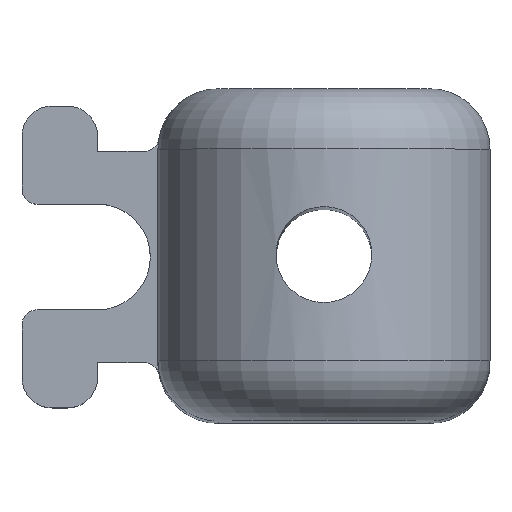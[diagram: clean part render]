
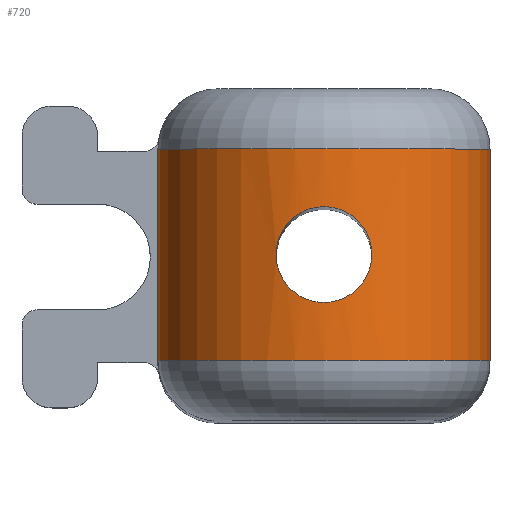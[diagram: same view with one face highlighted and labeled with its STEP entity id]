
A CAD part, top view. The second image highlights one B-rep face of the part: STEP entity #720.
In plain terms, the highlighted cylindrical face has radius 11 mm (diameter 22 mm), a partial arc.
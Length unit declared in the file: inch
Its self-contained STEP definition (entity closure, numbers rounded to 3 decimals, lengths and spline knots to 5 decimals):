
#39=FACE_BOUND('',#87,.T.);
#41=B_SPLINE_CURVE_WITH_KNOTS('',3,(#1118,#1119,#1120,#1121,#1122,#1123,
#1124,#1125,#1126,#1127,#1128,#1129,#1130,#1131),.UNSPECIFIED.,.F.,.F.,
(4,2,2,2,2,2,4),(1.92544,2.0458,2.16615,2.28648,
2.4068,2.52713,2.54432),.UNSPECIFIED.);
#42=B_SPLINE_CURVE_WITH_KNOTS('',3,(#1132,#1133,#1134,#1135,#1136,#1137,
#1138,#1139,#1140,#1141,#1142,#1143,#1144,#1145,#1146,#1147,#1148,#1149,
#1150,#1151,#1152,#1153,#1154,#1155),.UNSPECIFIED.,.F.,.F.,(4,2,2,2,2,2,
2,2,2,2,2,4),(0.61887,0.72201,0.84237,0.96272,
1.08308,1.20343,1.32376,1.44408,1.56441,
1.68473,1.80509,1.92544),.UNSPECIFIED.);
#43=FACE_OUTER_BOUND('',#86,.T.);
#86=EDGE_LOOP('',(#481,#482,#483,#484));
#87=EDGE_LOOP('',(#485,#486));
#131=LINE('',#1112,#194);
#132=LINE('',#1115,#195);
#194=VECTOR('',#871,0.55118);
#195=VECTOR('',#874,0.55118);
#257=CIRCLE('',#778,0.43307);
#258=CIRCLE('',#779,0.43307);
#302=VERTEX_POINT('',#1108);
#303=VERTEX_POINT('',#1109);
#304=VERTEX_POINT('',#1111);
#305=VERTEX_POINT('',#1113);
#306=VERTEX_POINT('',#1116);
#307=VERTEX_POINT('',#1117);
#371=EDGE_CURVE('',#302,#303,#257,.T.);
#372=EDGE_CURVE('',#302,#304,#131,.T.);
#373=EDGE_CURVE('',#305,#304,#258,.T.);
#374=EDGE_CURVE('',#303,#305,#132,.T.);
#375=EDGE_CURVE('',#306,#307,#41,.F.);
#376=EDGE_CURVE('',#307,#306,#42,.F.);
#481=ORIENTED_EDGE('',*,*,#371,.F.);
#482=ORIENTED_EDGE('',*,*,#372,.T.);
#483=ORIENTED_EDGE('',*,*,#373,.F.);
#484=ORIENTED_EDGE('',*,*,#374,.F.);
#485=ORIENTED_EDGE('',*,*,#375,.T.);
#486=ORIENTED_EDGE('',*,*,#376,.T.);
#701=CYLINDRICAL_SURFACE('',#777,0.43307);
#720=ADVANCED_FACE('',(#43,#39),#701,.T.);
#777=AXIS2_PLACEMENT_3D('',#1107,#867,#868);
#778=AXIS2_PLACEMENT_3D('',#1110,#869,#870);
#779=AXIS2_PLACEMENT_3D('',#1114,#872,#873);
#867=DIRECTION('center_axis',(0.,1.,0.));
#868=DIRECTION('ref_axis',(-1.,0.,0.));
#869=DIRECTION('center_axis',(0.,-1.,0.));
#870=DIRECTION('ref_axis',(0.,0.,1.));
#871=DIRECTION('',(0.,1.,0.));
#872=DIRECTION('center_axis',(0.,1.,0.));
#873=DIRECTION('ref_axis',(0.,0.,1.));
#874=DIRECTION('',(0.,1.,0.));
#1107=CARTESIAN_POINT('Origin',(0.,0.,3.89764));
#1108=CARTESIAN_POINT('',(0.43307,-0.27559,3.89764));
#1109=CARTESIAN_POINT('',(-0.43307,-0.27559,3.89764));
#1110=CARTESIAN_POINT('Origin',(0.,-0.27559,
3.89764));
#1111=CARTESIAN_POINT('',(0.43307,0.27559,3.89764));
#1112=CARTESIAN_POINT('',(0.43307,-0.27559,3.89764));
#1113=CARTESIAN_POINT('',(-0.43307,0.27559,3.89764));
#1114=CARTESIAN_POINT('Origin',(0.,0.27559,
3.89764));
#1115=CARTESIAN_POINT('',(-0.43307,-0.27559,3.89764));
#1116=CARTESIAN_POINT('',(-0.05447,0.11251,4.32727));
#1117=CARTESIAN_POINT('',(0.125,0.,4.31228));
#1118=CARTESIAN_POINT('Ctrl Pts',(0.125,0.,4.31228));
#1119=CARTESIAN_POINT('Ctrl Pts',(0.125,0.01579,4.31228));
#1120=CARTESIAN_POINT('Ctrl Pts',(0.12182,0.03258,4.31327));
#1121=CARTESIAN_POINT('Ctrl Pts',(0.10904,0.06334,
4.31681));
#1122=CARTESIAN_POINT('Ctrl Pts',(0.09944,0.07734,
4.31929));
#1123=CARTESIAN_POINT('Ctrl Pts',(0.07734,0.09943,
4.3239));
#1124=CARTESIAN_POINT('Ctrl Pts',(0.06335,0.10904,4.32633));
#1125=CARTESIAN_POINT('Ctrl Pts',(0.03257,0.12183,
4.32976));
#1126=CARTESIAN_POINT('Ctrl Pts',(0.01579,0.125,4.33071));
#1127=CARTESIAN_POINT('Ctrl Pts',(-0.01579,0.125,4.33071));
#1128=CARTESIAN_POINT('Ctrl Pts',(-0.03257,0.12183,
4.32976));
#1129=CARTESIAN_POINT('Ctrl Pts',(-0.05016,0.11452,
4.3278));
#1130=CARTESIAN_POINT('Ctrl Pts',(-0.05233,0.11354,
4.32754));
#1131=CARTESIAN_POINT('Ctrl Pts',(-0.05447,0.11251,
4.32727));
#1132=CARTESIAN_POINT('Ctrl Pts',(-0.05447,0.11251,
4.32727));
#1133=CARTESIAN_POINT('Ctrl Pts',(-0.0673,0.1063,
4.32564));
#1134=CARTESIAN_POINT('Ctrl Pts',(-0.07892,0.09786,
4.32357));
#1135=CARTESIAN_POINT('Ctrl Pts',(-0.09944,0.07734,
4.31929));
#1136=CARTESIAN_POINT('Ctrl Pts',(-0.10904,0.06334,
4.31681));
#1137=CARTESIAN_POINT('Ctrl Pts',(-0.12182,0.03258,
4.31327));
#1138=CARTESIAN_POINT('Ctrl Pts',(-0.125,0.01579,4.31228));
#1139=CARTESIAN_POINT('Ctrl Pts',(-0.125,-0.01579,4.31228));
#1140=CARTESIAN_POINT('Ctrl Pts',(-0.12182,-0.03258,
4.31327));
#1141=CARTESIAN_POINT('Ctrl Pts',(-0.10904,-0.06334,
4.31681));
#1142=CARTESIAN_POINT('Ctrl Pts',(-0.09944,-0.07734,
4.31929));
#1143=CARTESIAN_POINT('Ctrl Pts',(-0.07734,-0.09943,
4.3239));
#1144=CARTESIAN_POINT('Ctrl Pts',(-0.06335,-0.10904,
4.32633));
#1145=CARTESIAN_POINT('Ctrl Pts',(-0.03257,-0.12183,
4.32976));
#1146=CARTESIAN_POINT('Ctrl Pts',(-0.01579,-0.125,4.33071));
#1147=CARTESIAN_POINT('Ctrl Pts',(0.01579,-0.125,4.33071));
#1148=CARTESIAN_POINT('Ctrl Pts',(0.03257,-0.12183,
4.32976));
#1149=CARTESIAN_POINT('Ctrl Pts',(0.06335,-0.10904,
4.32633));
#1150=CARTESIAN_POINT('Ctrl Pts',(0.07734,-0.09943,
4.3239));
#1151=CARTESIAN_POINT('Ctrl Pts',(0.09944,-0.07734,
4.31929));
#1152=CARTESIAN_POINT('Ctrl Pts',(0.10904,-0.06334,
4.31681));
#1153=CARTESIAN_POINT('Ctrl Pts',(0.12182,-0.03258,
4.31327));
#1154=CARTESIAN_POINT('Ctrl Pts',(0.125,-0.01579,4.31228));
#1155=CARTESIAN_POINT('Ctrl Pts',(0.125,0.,4.31228));
